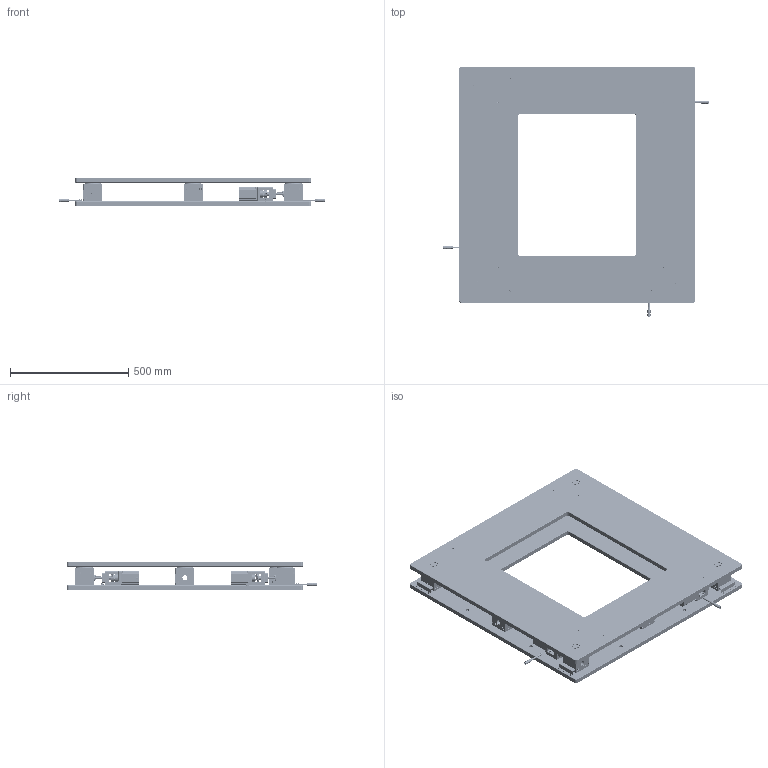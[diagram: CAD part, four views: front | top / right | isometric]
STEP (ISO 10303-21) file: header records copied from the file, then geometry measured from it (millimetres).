
FILE_DESCRIPTION (( 'STEP AP214' ), '1' );
FILE_NAME ('XXY1000A-PM57.STEP', '2025-01-03T07:40:10', ( '' ), ( '' ), 'SwSTEP 2.0', 'SolidWorks 2020', '' );
FILE_SCHEMA (( 'AUTOMOTIVE_DESIGN' ));
Length unit declared in the file: millimetre
Products named in the file (1): XXY1000A-PM57
Bounding box: 1130 x 1060 x 120 mm (x, y, z)
Surface area: 4507488 mm2 (no closed solid volume)
Topology: 0 solids, 731 shells, 32602 faces, 83092 edges, 53357 vertices
Faces by surface type: plane 15767, cylinder 12365, cone 2089, torus 2077, bspline 292, sphere 12
Entity records: 1301679 total; most frequent: CARTESIAN_POINT 506664, ORIENTED_EDGE 160849, DIRECTION 160407, EDGE_CURVE 82496, AXIS2_PLACEMENT_3D 55795, VERTEX_POINT 53345, LINE 48817, VECTOR 48817
